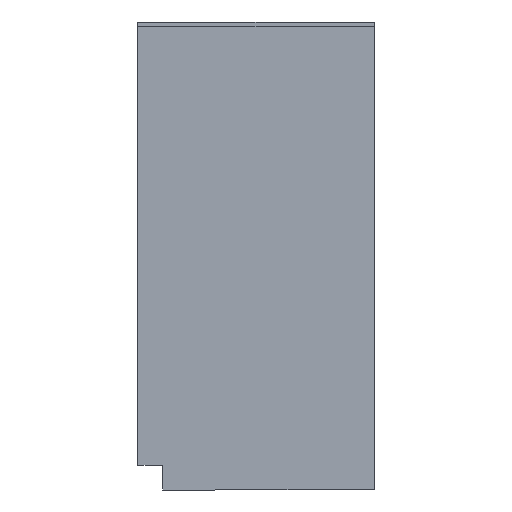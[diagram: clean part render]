
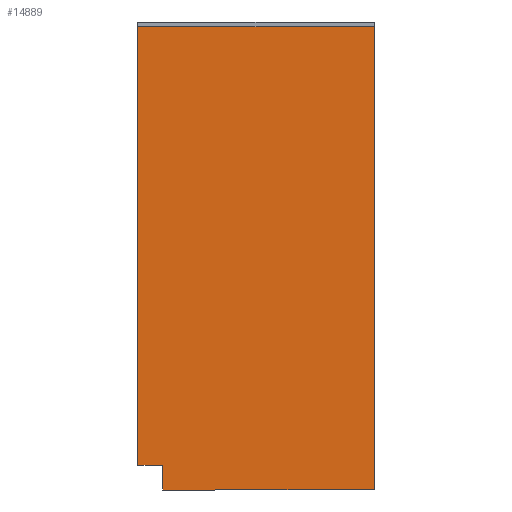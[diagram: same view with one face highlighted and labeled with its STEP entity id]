
A CAD part, left-side view. The second image highlights one B-rep face of the part: STEP entity #14889.
In plain terms, the highlighted planar face has unit normal (-1, 0, 0).
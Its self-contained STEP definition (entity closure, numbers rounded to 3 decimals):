
#445=PLANE('',#15906);
#1015=FACE_OUTER_BOUND('',#1984,.T.);
#1984=EDGE_LOOP('',(#10725,#10726,#10727,#10728,#10729,#10730));
#3158=LINE('',#22820,#4573);
#3160=LINE('',#22824,#4575);
#3162=LINE('',#22828,#4577);
#3163=LINE('',#22830,#4578);
#3164=LINE('',#22832,#4579);
#3165=LINE('',#22833,#4580);
#4573=VECTOR('',#18018,10.);
#4575=VECTOR('',#18022,10.);
#4577=VECTOR('',#18026,10.);
#4578=VECTOR('',#18027,10.);
#4579=VECTOR('',#18028,10.);
#4580=VECTOR('',#18029,10.);
#6798=VERTEX_POINT('',#22817);
#6799=VERTEX_POINT('',#22819);
#6800=VERTEX_POINT('',#22823);
#6801=VERTEX_POINT('',#22827);
#6802=VERTEX_POINT('',#22829);
#6803=VERTEX_POINT('',#22831);
#8301=EDGE_CURVE('',#6798,#6799,#3158,.T.);
#8303=EDGE_CURVE('',#6800,#6799,#3160,.T.);
#8305=EDGE_CURVE('',#6801,#6798,#3162,.T.);
#8306=EDGE_CURVE('',#6801,#6802,#3163,.T.);
#8307=EDGE_CURVE('',#6802,#6803,#3164,.T.);
#8308=EDGE_CURVE('',#6803,#6800,#3165,.T.);
#10725=ORIENTED_EDGE('',*,*,#8305,.F.);
#10726=ORIENTED_EDGE('',*,*,#8306,.T.);
#10727=ORIENTED_EDGE('',*,*,#8307,.T.);
#10728=ORIENTED_EDGE('',*,*,#8308,.T.);
#10729=ORIENTED_EDGE('',*,*,#8303,.T.);
#10730=ORIENTED_EDGE('',*,*,#8301,.F.);
#14889=ADVANCED_FACE('',(#1015),#445,.T.);
#15906=AXIS2_PLACEMENT_3D('',#22826,#18024,#18025);
#18018=DIRECTION('',(0.,-1.,0.));
#18022=DIRECTION('',(0.,0.,1.));
#18024=DIRECTION('center_axis',(-1.,0.,0.));
#18025=DIRECTION('ref_axis',(0.,0.,1.));
#18026=DIRECTION('',(0.,0.,1.));
#18027=DIRECTION('',(0.,-1.,0.));
#18028=DIRECTION('',(0.,0.,-1.));
#18029=DIRECTION('',(0.,-1.,0.));
#22817=CARTESIAN_POINT('',(-1.5,84.,186.));
#22819=CARTESIAN_POINT('',(-1.5,-11.,186.));
#22820=CARTESIAN_POINT('',(-1.5,-11.,186.));
#22823=CARTESIAN_POINT('',(-1.5,-11.,0.));
#22824=CARTESIAN_POINT('',(-1.5,-11.,0.));
#22826=CARTESIAN_POINT('Origin',(-1.5,36.5,76.5));
#22827=CARTESIAN_POINT('',(-1.5,84.,10.));
#22828=CARTESIAN_POINT('',(-1.5,84.,151.));
#22829=CARTESIAN_POINT('',(-1.5,74.,10.));
#22830=CARTESIAN_POINT('',(-1.5,84.,10.));
#22831=CARTESIAN_POINT('',(-1.5,74.,0.));
#22832=CARTESIAN_POINT('',(-1.5,74.,10.));
#22833=CARTESIAN_POINT('',(-1.5,74.,0.));
